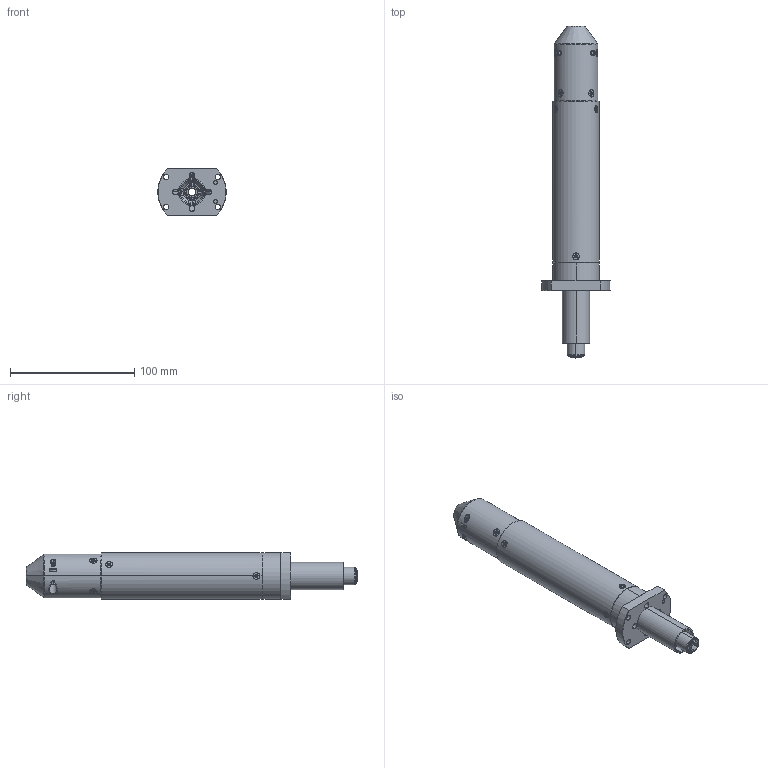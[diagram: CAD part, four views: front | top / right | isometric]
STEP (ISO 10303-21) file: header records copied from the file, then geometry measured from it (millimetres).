
FILE_DESCRIPTION (( 'STEP AP203' ), '1' );
FILE_NAME ('EXT-MDA2203-A.STEP', '2025-07-02T03:59:26', ( '' ), ( '' ), 'SwSTEP 2.0', 'SolidWorks 2024', '' );
FILE_SCHEMA (( 'CONFIG_CONTROL_DESIGN' ));
Length unit declared in the file: millimetre
Products named in the file (1): EXT-MDA2203-A
Bounding box: 54.81 x 267.35 x 37.6 mm (x, y, z)
Surface area: 35620.9 mm2 (no closed solid volume)
Topology: 0 solids, 36 shells, 425 faces, 1419 edges, 993 vertices
Faces by surface type: plane 183, cylinder 114, cone 104, torus 12, bspline 12
Entity records: 18844 total; most frequent: CARTESIAN_POINT 7221, DIRECTION 2277, ORIENTED_EDGE 2164, EDGE_CURVE 1419, VERTEX_POINT 993, AXIS2_PLACEMENT_3D 842, LINE 593, VECTOR 593
